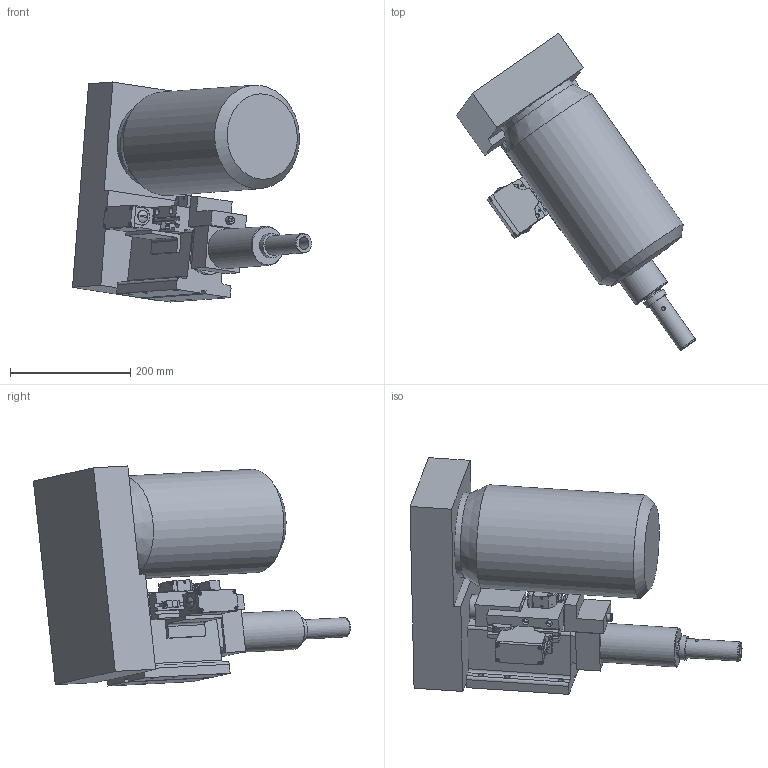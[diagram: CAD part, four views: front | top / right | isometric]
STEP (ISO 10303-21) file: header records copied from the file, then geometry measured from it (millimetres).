
FILE_DESCRIPTION((''),'2;1');
FILE_NAME('C:\VaultWork\Zeichnungen\Maßblätter\Gewindemaschinen\G6-50\G01412-2-0 Maßblatt G6-50 mit U-Laterne und Stellhülsenaufnahme Gr. 20.stp','2009-06-25T15:44:37',('Test'),(''),'Autodesk Inventor 2008','Autodesk Inventor 2008','');
FILE_SCHEMA(('AUTOMOTIVE_DESIGN { 1 0 10303 214 1 1 1 1 }'));
Length unit declared in the file: millimetre
Products named in the file (1): G01412-2-0 Maßblatt G6-50 mit U-Laterne und Stellhülsenaufnahme Gr. 20
Bounding box: 397 x 526.68 x 365.34 mm (x, y, z)
Volume: 13338503.5 mm3; surface area: 629016.7 mm2
Topology: 3 solids, 3 shells, 515 faces, 1348 edges, 878 vertices
Faces by surface type: plane 347, cylinder 93, cone 37, torus 18, bspline 16, sphere 4
Full cylindrical faces by diameter (mm): 3.8 x2, 4 x2, 4.3 x2, 4.917 x2, 5.9 x2, 5.97 x1, 6 x3, 6.6 x2, 6.647 x1, 7.323 x1, 8 x6, 9.98 x2, 10 x2, 11.4 x1, 13 x1, 16 x1, 20 x2, 22 x1, 28.5 x1, 32 x2, 35 x1, 40 x2, 65 x1, 140 x1, 172 x1
Entity records: 16472 total; most frequent: CARTESIAN_POINT 3767, ORIENTED_EDGE 2456, DIRECTION 2455, EDGE_CURVE 1228, VERTEX_POINT 840, AXIS2_PLACEMENT_3D 820, VECTOR 815, LINE 815
